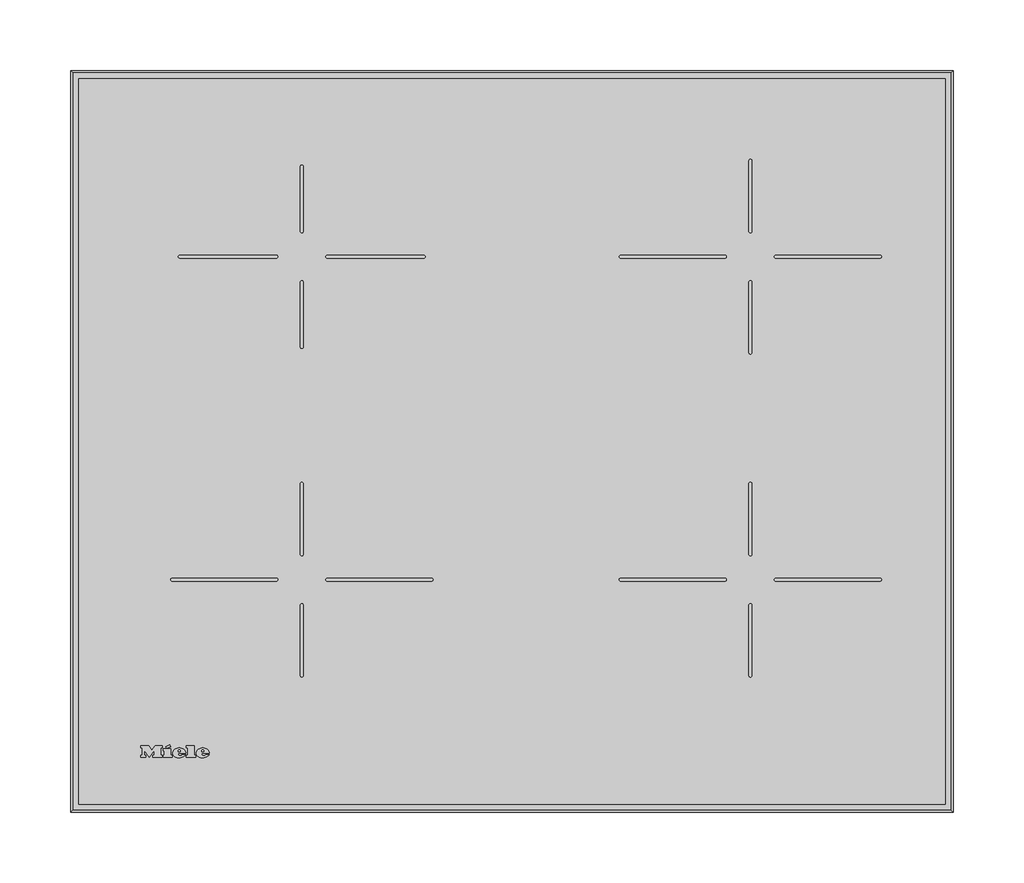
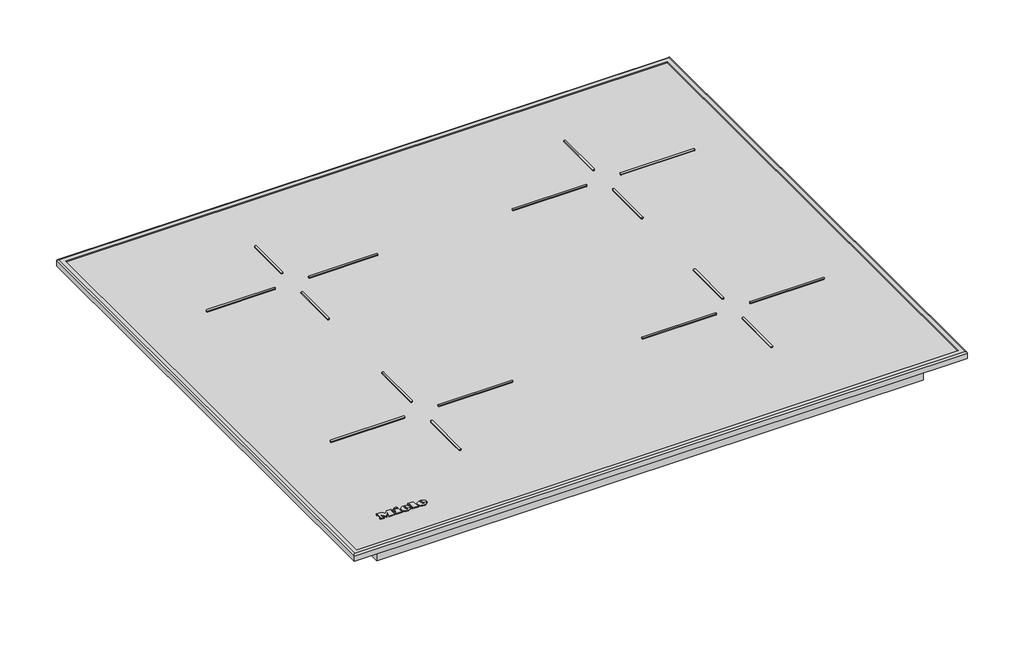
# Not in any storey: 1 proxy.
"""IFC4 building model written with IfcOpenShell, lengths in millimetres."""

from ifc_helpers import new_model, si_unit, origin, place, context, project, spatial, transform, mapped, element, save
from components import specialty_equipment_a7064428

model = new_model("IFC4")

# Units and contexts
model_context = context("Model", 3, world=origin())
ifc_project = project(units=[si_unit("LENGTHUNIT", "METRE", prefix="MILLI")], contexts=[model_context])

# Site, building
site = spatial("IfcSite", under=ifc_project)
building = spatial("IfcBuilding", under=site)

# Proxy
placement = place(None, origin())
specialty_equipment_shape = specialty_equipment_a7064428(model_context)
element("IfcBuildingElementProxy", 1, Name="12337590_D_KM7061FR : 26706110_D_12337590_KM7061FR", ObjectType="12337590_D_KM7061FR : 26706110_D_12337590_KM7061FR", at=placement, inside=building, context=model_context, shape_type="MappedRepresentation", body=[
    mapped(specialty_equipment_shape, transform((0.0, 0.0, 0.0), x_axis=(1.0, 0.0, 0.0), y_axis=(0.0, 1.0, 0.0), z_axis=(0.0, 0.0, 1.0))),
])

save(model, "model.ifc")
